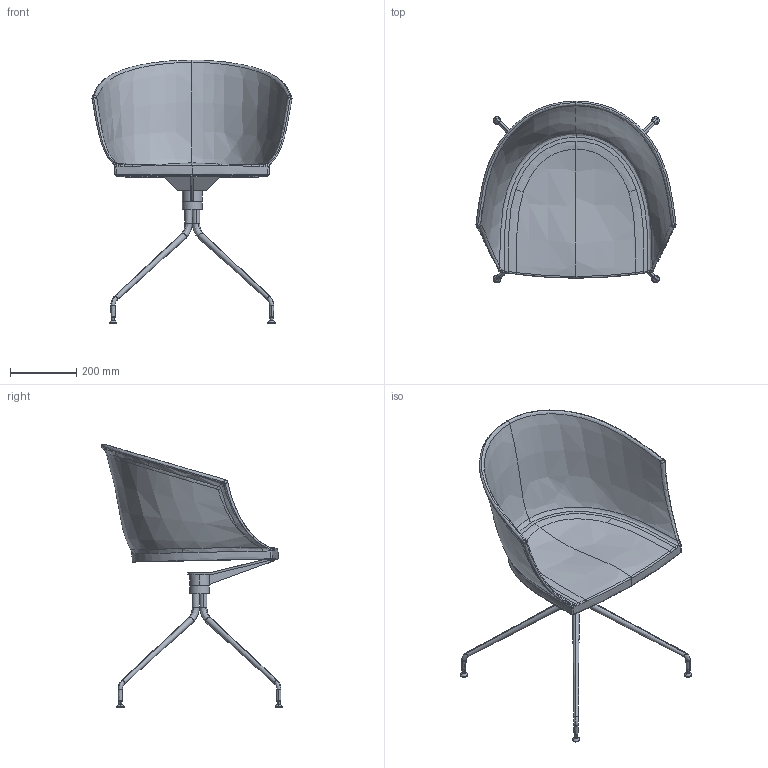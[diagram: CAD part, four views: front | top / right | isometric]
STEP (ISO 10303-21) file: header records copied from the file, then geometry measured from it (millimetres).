
FILE_DESCRIPTION(/* description */ (''),/* implementation_level */ '2;1');
FILE_NAME(/* name */ '4670 - Dandy Girò',/* time_stamp */ '2010-11-04T17:26:20+01:00',/* author */ (''),/* organization */ (''),/* preprocessor_version */ 'ST-DEVELOPER v10',/* originating_system */ '',/* authorisation */ '');
FILE_SCHEMA (('CONFIG_CONTROL_DESIGN'));
Length unit declared in the file: centimetre
Products named in the file (1): 1
Bounding box: 605.68 x 548.67 x 798.05 mm (x, y, z)
Volume: 5024679.9 mm3; surface area: 1478656.2 mm2
Topology: 13 solids, 13 shells, 372 faces, 885 edges, 548 vertices
Faces by surface type: bspline 307, plane 65
Entity records: 31060 total; most frequent: CARTESIAN_POINT 25603, ORIENTED_EDGE 1750, EDGE_CURVE 875, B_SPLINE_CURVE_WITH_KNOTS 580, VERTEX_POINT 548, EDGE_LOOP 403, ADVANCED_FACE 372, FACE_OUTER_BOUND 372
